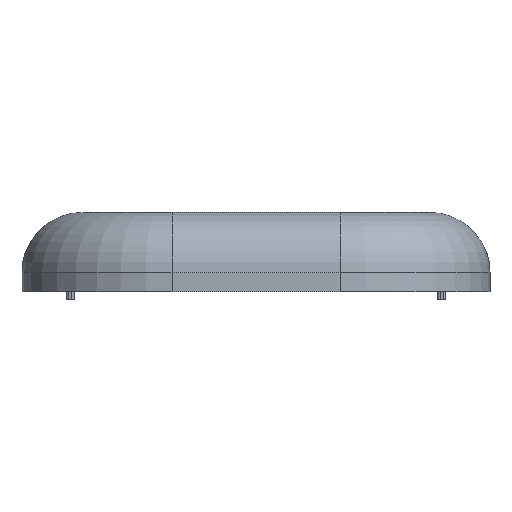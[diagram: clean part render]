
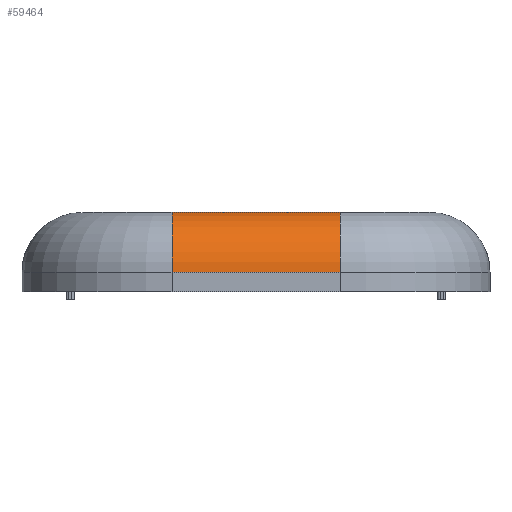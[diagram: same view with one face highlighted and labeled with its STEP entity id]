
A CAD part, front view. The second image highlights one B-rep face of the part: STEP entity #59464.
In plain terms, the highlighted cylindrical face has radius 10 mm (diameter 20 mm), a partial arc.
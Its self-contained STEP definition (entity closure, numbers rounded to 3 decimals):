
#17969 = PLANE('',#17970);
#17970 = AXIS2_PLACEMENT_3D('',#17971,#17972,#17973);
#17971 = CARTESIAN_POINT('',(0.,0.,0.));
#17972 = DIRECTION('',(0.,0.,-1.));
#17973 = DIRECTION('',(-1.,0.,0.));
#42082 = VERTEX_POINT('',#42083);
#42083 = CARTESIAN_POINT('',(14.,-65.,0.));
#42098 = TOROIDAL_SURFACE('',#42099,15.,10.);
#42099 = AXIS2_PLACEMENT_3D('',#42100,#42101,#42102);
#42100 = CARTESIAN_POINT('',(14.,-50.,-10.));
#42101 = DIRECTION('',(0.,0.,-1.));
#42102 = DIRECTION('',(-1.,0.,0.));
#42110 = EDGE_CURVE('',#42082,#42111,#42113,.T.);
#42111 = VERTEX_POINT('',#42112);
#42112 = CARTESIAN_POINT('',(-14.,-65.,0.));
#42113 = SURFACE_CURVE('',#42114,(#42118,#42125),.PCURVE_S1.);
#42114 = LINE('',#42115,#42116);
#42115 = CARTESIAN_POINT('',(7.,-65.,0.));
#42116 = VECTOR('',#42117,1.);
#42117 = DIRECTION('',(-1.,0.,0.));
#42118 = PCURVE('',#17969,#42119);
#42119 = DEFINITIONAL_REPRESENTATION('',(#42120),#42124);
#42120 = LINE('',#42121,#42122);
#42121 = CARTESIAN_POINT('',(-7.,-65.));
#42122 = VECTOR('',#42123,1.);
#42123 = DIRECTION('',(1.,0.));
#42124 = ( GEOMETRIC_REPRESENTATION_CONTEXT(2) 
PARAMETRIC_REPRESENTATION_CONTEXT() REPRESENTATION_CONTEXT('2D SPACE',''
  ) );
#42125 = PCURVE('',#42126,#42131);
#42126 = CYLINDRICAL_SURFACE('',#42127,10.);
#42127 = AXIS2_PLACEMENT_3D('',#42128,#42129,#42130);
#42128 = CARTESIAN_POINT('',(7.,-65.,-10.));
#42129 = DIRECTION('',(-1.,0.,0.));
#42130 = DIRECTION('',(-0.,-0.707,0.707));
#42131 = DEFINITIONAL_REPRESENTATION('',(#42132),#42136);
#42132 = LINE('',#42133,#42134);
#42133 = CARTESIAN_POINT('',(0.785,0.));
#42134 = VECTOR('',#42135,1.);
#42135 = DIRECTION('',(0.,1.));
#42136 = ( GEOMETRIC_REPRESENTATION_CONTEXT(2) 
PARAMETRIC_REPRESENTATION_CONTEXT() REPRESENTATION_CONTEXT('2D SPACE',''
  ) );
#42155 = TOROIDAL_SURFACE('',#42156,15.,10.);
#42156 = AXIS2_PLACEMENT_3D('',#42157,#42158,#42159);
#42157 = CARTESIAN_POINT('',(-14.,-50.,-10.));
#42158 = DIRECTION('',(0.,0.,-1.));
#42159 = DIRECTION('',(-1.,0.,0.));
#59357 = EDGE_CURVE('',#42082,#59358,#59360,.T.);
#59358 = VERTEX_POINT('',#59359);
#59359 = CARTESIAN_POINT('',(14.,-75.,-10.));
#59360 = SURFACE_CURVE('',#59361,(#59366,#59373),.PCURVE_S1.);
#59361 = CIRCLE('',#59362,10.);
#59362 = AXIS2_PLACEMENT_3D('',#59363,#59364,#59365);
#59363 = CARTESIAN_POINT('',(14.,-65.,-10.));
#59364 = DIRECTION('',(1.,0.,-0.));
#59365 = DIRECTION('',(0.,0.,1.));
#59366 = PCURVE('',#42098,#59367);
#59367 = DEFINITIONAL_REPRESENTATION('',(#59368),#59372);
#59368 = LINE('',#59369,#59370);
#59369 = CARTESIAN_POINT('',(4.712,4.712));
#59370 = VECTOR('',#59371,1.);
#59371 = DIRECTION('',(0.,1.));
#59372 = ( GEOMETRIC_REPRESENTATION_CONTEXT(2) 
PARAMETRIC_REPRESENTATION_CONTEXT() REPRESENTATION_CONTEXT('2D SPACE',''
  ) );
#59373 = PCURVE('',#42126,#59374);
#59374 = DEFINITIONAL_REPRESENTATION('',(#59375),#59379);
#59375 = LINE('',#59376,#59377);
#59376 = CARTESIAN_POINT('',(0.785,-7.));
#59377 = VECTOR('',#59378,1.);
#59378 = DIRECTION('',(-1.,0.));
#59379 = ( GEOMETRIC_REPRESENTATION_CONTEXT(2) 
PARAMETRIC_REPRESENTATION_CONTEXT() REPRESENTATION_CONTEXT('2D SPACE',''
  ) );
#59464 = ADVANCED_FACE('',(#59465),#42126,.T.);
#59465 = FACE_BOUND('',#59466,.T.);
#59466 = EDGE_LOOP('',(#59467,#59491,#59517,#59518));
#59467 = ORIENTED_EDGE('',*,*,#59468,.T.);
#59468 = EDGE_CURVE('',#42111,#59469,#59471,.T.);
#59469 = VERTEX_POINT('',#59470);
#59470 = CARTESIAN_POINT('',(-14.,-75.,-10.));
#59471 = SURFACE_CURVE('',#59472,(#59477,#59484),.PCURVE_S1.);
#59472 = CIRCLE('',#59473,10.);
#59473 = AXIS2_PLACEMENT_3D('',#59474,#59475,#59476);
#59474 = CARTESIAN_POINT('',(-14.,-65.,-10.));
#59475 = DIRECTION('',(1.,0.,0.));
#59476 = DIRECTION('',(0.,0.,1.));
#59477 = PCURVE('',#42126,#59478);
#59478 = DEFINITIONAL_REPRESENTATION('',(#59479),#59483);
#59479 = LINE('',#59480,#59481);
#59480 = CARTESIAN_POINT('',(0.785,21.));
#59481 = VECTOR('',#59482,1.);
#59482 = DIRECTION('',(-1.,0.));
#59483 = ( GEOMETRIC_REPRESENTATION_CONTEXT(2) 
PARAMETRIC_REPRESENTATION_CONTEXT() REPRESENTATION_CONTEXT('2D SPACE',''
  ) );
#59484 = PCURVE('',#42155,#59485);
#59485 = DEFINITIONAL_REPRESENTATION('',(#59486),#59490);
#59486 = LINE('',#59487,#59488);
#59487 = CARTESIAN_POINT('',(4.712,4.712));
#59488 = VECTOR('',#59489,1.);
#59489 = DIRECTION('',(0.,1.));
#59490 = ( GEOMETRIC_REPRESENTATION_CONTEXT(2) 
PARAMETRIC_REPRESENTATION_CONTEXT() REPRESENTATION_CONTEXT('2D SPACE',''
  ) );
#59491 = ORIENTED_EDGE('',*,*,#59492,.T.);
#59492 = EDGE_CURVE('',#59469,#59358,#59493,.T.);
#59493 = SURFACE_CURVE('',#59494,(#59498,#59505),.PCURVE_S1.);
#59494 = LINE('',#59495,#59496);
#59495 = CARTESIAN_POINT('',(7.,-75.,-10.));
#59496 = VECTOR('',#59497,1.);
#59497 = DIRECTION('',(1.,0.,0.));
#59498 = PCURVE('',#42126,#59499);
#59499 = DEFINITIONAL_REPRESENTATION('',(#59500),#59504);
#59500 = LINE('',#59501,#59502);
#59501 = CARTESIAN_POINT('',(-0.785,0.));
#59502 = VECTOR('',#59503,1.);
#59503 = DIRECTION('',(0.,-1.));
#59504 = ( GEOMETRIC_REPRESENTATION_CONTEXT(2) 
PARAMETRIC_REPRESENTATION_CONTEXT() REPRESENTATION_CONTEXT('2D SPACE',''
  ) );
#59505 = PCURVE('',#59506,#59511);
#59506 = PLANE('',#59507);
#59507 = AXIS2_PLACEMENT_3D('',#59508,#59509,#59510);
#59508 = CARTESIAN_POINT('',(14.,-75.,0.));
#59509 = DIRECTION('',(0.,-1.,0.));
#59510 = DIRECTION('',(-1.,0.,0.));
#59511 = DEFINITIONAL_REPRESENTATION('',(#59512),#59516);
#59512 = LINE('',#59513,#59514);
#59513 = CARTESIAN_POINT('',(7.,10.));
#59514 = VECTOR('',#59515,1.);
#59515 = DIRECTION('',(-1.,0.));
#59516 = ( GEOMETRIC_REPRESENTATION_CONTEXT(2) 
PARAMETRIC_REPRESENTATION_CONTEXT() REPRESENTATION_CONTEXT('2D SPACE',''
  ) );
#59517 = ORIENTED_EDGE('',*,*,#59357,.F.);
#59518 = ORIENTED_EDGE('',*,*,#42110,.T.);
